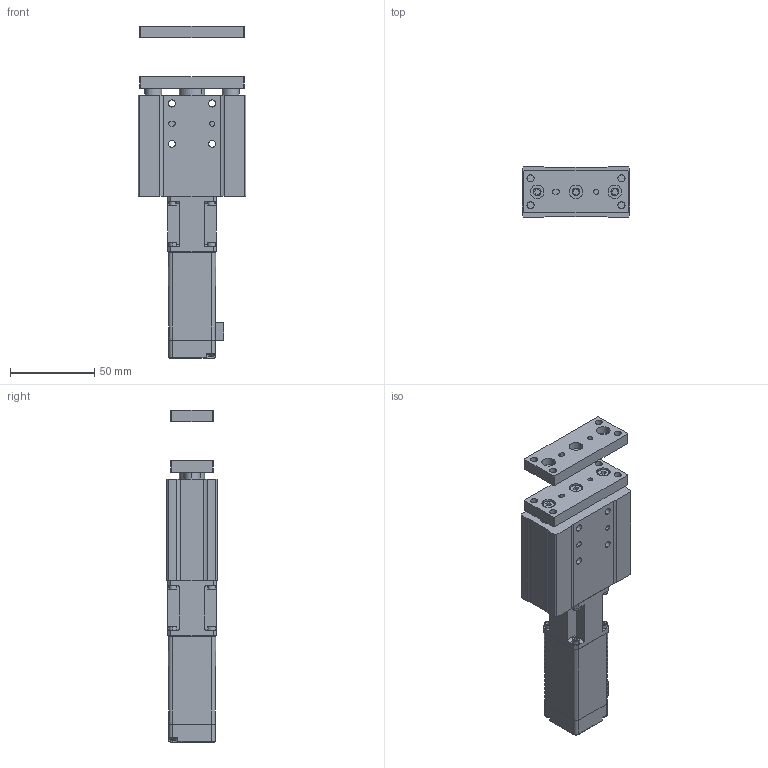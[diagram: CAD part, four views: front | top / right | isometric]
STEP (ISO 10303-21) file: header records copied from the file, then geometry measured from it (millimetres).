
FILE_DESCRIPTION (( 'STEP AP203' ), '1' );
FILE_NAME ('CSSG16-xx-30-xx-CSO-xx-xx.STEP', '2024-10-18T06:57:22', ( 'Windows User' ), ( 'P R C' ), 'SwSTEP 2.0', 'SolidWorks 2018', '' );
FILE_SCHEMA (( 'CONFIG_CONTROL_DESIGN' ));
Length unit declared in the file: millimetre
Products named in the file (10): 复件 内六角杯头螺钉M2.5-8^SSG16（ST=30）外形尺寸装配体; 复件 (2) 28闭环步进电机-客用3D^SSG16（ST=30）外形尺寸装配体; CSSG16-xx-30-xx-CSO-xx-xx; 复件 SVS-WS-RB24031-P005  电机座^SSG16（ST=30）外形尺寸装配体; 复件 内六角杯头螺钉M4-8^SSG16（ST=30）外形尺寸装配体; 复件 SVS-WS-RB24031-P002 空心圆杆 （ST=30）^SSG16（ST=30）外形尺寸装配体; 复件 内六角杯头螺钉M2.5-6^SSG16（ST=30）外形尺寸装配体; 复件 SVS-WS-RB24031-P006  安装板^SSG16（ST=30）外形尺寸装配体; 复件 SVS-WS-RB24031-P001-01  FRAME （ST=30）^SSG16（ST=30）外形尺寸装配体; 复件 SVS-WS-RB24031-P003  导杆（ST=30）^SSG16（ST=30）外形尺寸装配体
Assembly tree (19 placements, depth 2):
  CSSG16-xx-30-xx-CSO-xx-xx
    复件 SVS-WS-RB24031-P001-01  FRAME （ST=30）^SSG16（ST=30）外形尺寸装配体
    复件 SVS-WS-RB24031-P002 空心圆杆 （ST=30）^SSG16（ST=30）外形尺寸装配体
    复件 SVS-WS-RB24031-P003  导杆（ST=30）^SSG16（ST=30）外形尺寸装配体  x2
    复件 SVS-WS-RB24031-P005  电机座^SSG16（ST=30）外形尺寸装配体
    复件 SVS-WS-RB24031-P006  安装板^SSG16（ST=30）外形尺寸装配体  x2
    复件 (2) 28闭环步进电机-客用3D^SSG16（ST=30）外形尺寸装配体
    复件 内六角杯头螺钉M2.5-8^SSG16（ST=30）外形尺寸装配体  x4
    复件 内六角杯头螺钉M4-8^SSG16（ST=30）外形尺寸装配体  x3
    复件 内六角杯头螺钉M2.5-6^SSG16（ST=30）外形尺寸装配体  x4
Bounding box: 64 x 30 x 197.1 mm (x, y, z)
Volume: 204323.8 mm3; surface area: 45612 mm2
Topology: 21 solids, 21 shells, 553 faces, 1298 edges, 823 vertices
Faces by surface type: plane 256, cylinder 188, cone 55, torus 46, bspline 8
Entity records: 11947 total; most frequent: CARTESIAN_POINT 2175, DIRECTION 1856, ORIENTED_EDGE 1678, EDGE_CURVE 839, AXIS2_PLACEMENT_3D 691, VERTEX_POINT 541, LINE 474, VECTOR 474
